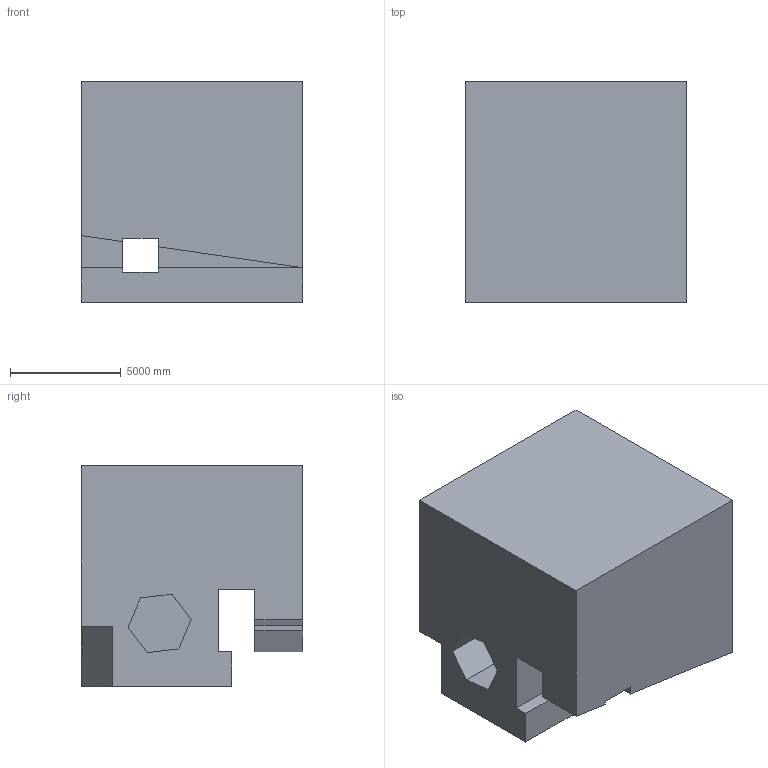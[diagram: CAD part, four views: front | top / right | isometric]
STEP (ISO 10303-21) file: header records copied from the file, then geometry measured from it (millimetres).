
FILE_DESCRIPTION (( 'STEP AP203' ), '1' );
FILE_NAME ('467.STEP', '2022-08-04T14:26:41', ( 'user' ), ( '' ), 'SwSTEP 2.0', 'SolidWorks 2021', '' );
FILE_SCHEMA (( 'CONFIG_CONTROL_DESIGN' ));
Length unit declared in the file: centimetre
Products named in the file (1): 467
Bounding box: 10000 x 10000 x 10000 mm (x, y, z)
Volume: 825220124014.7 mm3; surface area: 720252815.7 mm2
Topology: 1 solids, 1 shells, 33 faces, 102 edges, 68 vertices
Faces by surface type: plane 33
Entity records: 1201 total; most frequent: ORIENTED_EDGE 204, CARTESIAN_POINT 204, DIRECTION 170, LINE 102, VECTOR 102, EDGE_CURVE 102, VERTEX_POINT 68, EDGE_LOOP 34
